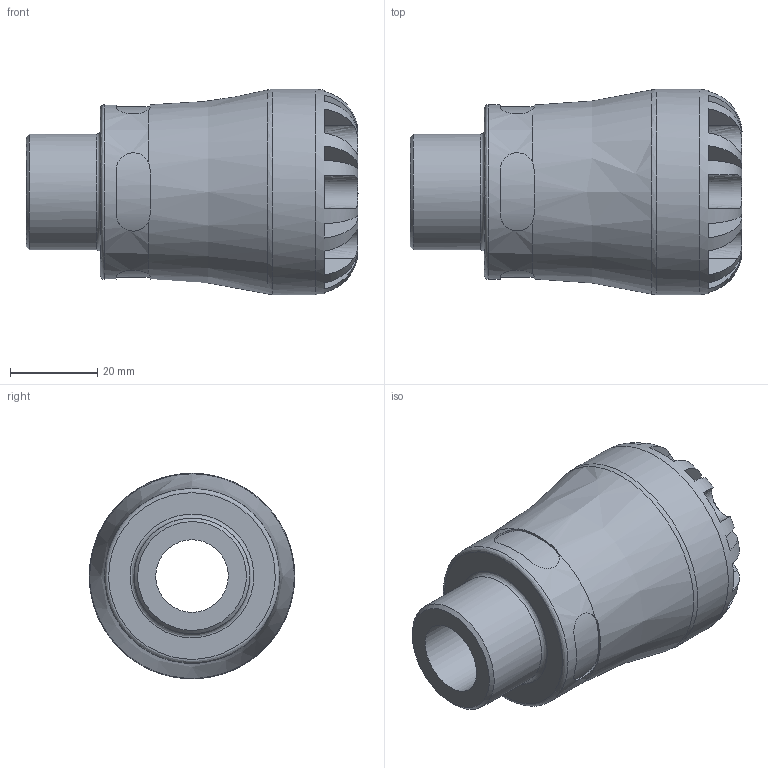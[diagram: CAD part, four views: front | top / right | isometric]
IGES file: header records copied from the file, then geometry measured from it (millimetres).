
Global section: file name: 1002Z0007007; native system: Autodesk Inventor 2019; preprocessor: unknown; author: KIM; date: 20210902.143651; units: inch
Bounding box: 75.95 x 46.99 x 46.98 mm (x, y, z)
Volume: 65950.1 mm3; surface area: 17852.3 mm2
Topology: 1 solids, 1 shells, 100 faces, 273 edges, 177 vertices
Faces by surface type: bspline 100
